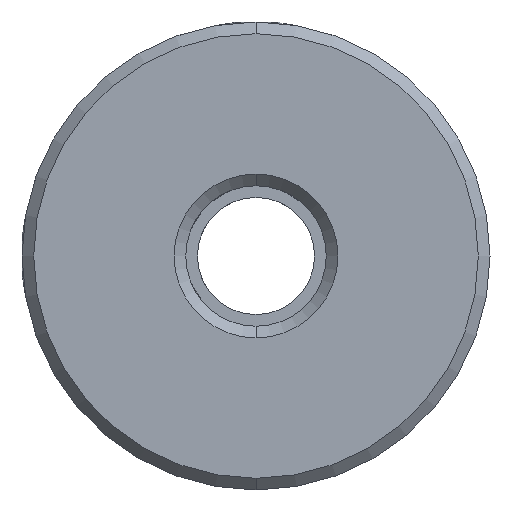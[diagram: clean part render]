
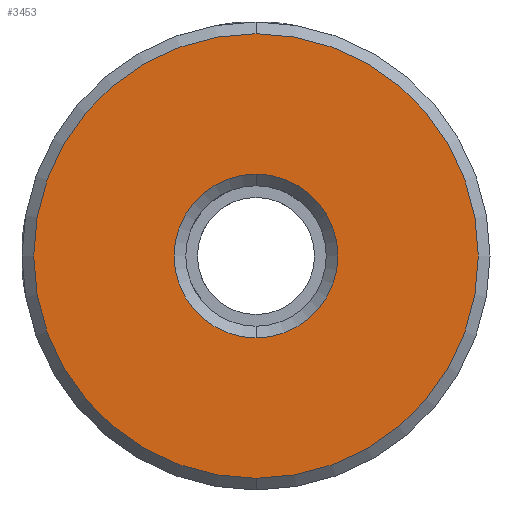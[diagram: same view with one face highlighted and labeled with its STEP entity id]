
A CAD part, front view. The second image highlights one B-rep face of the part: STEP entity #3453.
In plain terms, the highlighted planar face has unit normal (0, -1, 0).
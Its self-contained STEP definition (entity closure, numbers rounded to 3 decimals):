
#29 = CIRCLE ( 'NONE', #271, 9.5 ) ;
#180 = DIRECTION ( 'NONE',  ( 0., 1., 0. ) ) ;
#246 = EDGE_LOOP ( 'NONE', ( #1196, #3404 ) ) ;
#271 = AXIS2_PLACEMENT_3D ( 'NONE', #3485, #1803, #385 ) ;
#340 = DIRECTION ( 'NONE',  ( 0., -1., 0. ) ) ;
#385 = DIRECTION ( 'NONE',  ( 0., 0., 1. ) ) ;
#446 = CIRCLE ( 'NONE', #3272, 9.5 ) ;
#720 = FACE_BOUND ( 'NONE', #2488, .T. ) ;
#883 = VERTEX_POINT ( 'NONE', #1522 ) ;
#923 = EDGE_CURVE ( 'NONE', #1706, #883, #446, .T. ) ;
#961 = ORIENTED_EDGE ( 'NONE', *, *, #2196, .T. ) ;
#1196 = ORIENTED_EDGE ( 'NONE', *, *, #923, .T. ) ;
#1319 = CIRCLE ( 'NONE', #1501, 3.5 ) ;
#1378 = DIRECTION ( 'NONE',  ( 0., 0., 1. ) ) ;
#1500 = DIRECTION ( 'NONE',  ( 0., 0., 1. ) ) ;
#1501 = AXIS2_PLACEMENT_3D ( 'NONE', #3356, #2750, #2450 ) ;
#1522 = CARTESIAN_POINT ( 'NONE',  ( -10.188, -0.277, -9.454 ) ) ;
#1578 = EDGE_CURVE ( 'NONE', #2083, #3560, #2036, .T. ) ;
#1652 = DIRECTION ( 'NONE',  ( 0., 1., 0. ) ) ;
#1689 = CARTESIAN_POINT ( 'NONE',  ( -10.188, -0.277, 3.546 ) ) ;
#1706 = VERTEX_POINT ( 'NONE', #2020 ) ;
#1737 = CARTESIAN_POINT ( 'NONE',  ( -10.188, -0.277, 0.046 ) ) ;
#1803 = DIRECTION ( 'NONE',  ( 0., -1., 0. ) ) ;
#1854 = PLANE ( 'NONE',  #2169 ) ;
#2020 = CARTESIAN_POINT ( 'NONE',  ( -10.188, -0.277, 9.546 ) ) ;
#2036 = CIRCLE ( 'NONE', #2264, 3.5 ) ;
#2044 = CARTESIAN_POINT ( 'NONE',  ( -10.188, -0.277, -3.454 ) ) ;
#2083 = VERTEX_POINT ( 'NONE', #2044 ) ;
#2169 = AXIS2_PLACEMENT_3D ( 'NONE', #2712, #180, #2724 ) ;
#2196 = EDGE_CURVE ( 'NONE', #3560, #2083, #1319, .T. ) ;
#2264 = AXIS2_PLACEMENT_3D ( 'NONE', #3060, #1652, #1378 ) ;
#2450 = DIRECTION ( 'NONE',  ( 0., 0., 1. ) ) ;
#2488 = EDGE_LOOP ( 'NONE', ( #3345, #961 ) ) ;
#2707 = EDGE_CURVE ( 'NONE', #883, #1706, #29, .T. ) ;
#2712 = CARTESIAN_POINT ( 'NONE',  ( -10.188, -0.277, 0.046 ) ) ;
#2724 = DIRECTION ( 'NONE',  ( 0., 0., 1. ) ) ;
#2750 = DIRECTION ( 'NONE',  ( 0., 1., 0. ) ) ;
#2993 = FACE_OUTER_BOUND ( 'NONE', #246, .T. ) ;
#3060 = CARTESIAN_POINT ( 'NONE',  ( -10.188, -0.277, 0.046 ) ) ;
#3272 = AXIS2_PLACEMENT_3D ( 'NONE', #1737, #340, #1500 ) ;
#3345 = ORIENTED_EDGE ( 'NONE', *, *, #1578, .T. ) ;
#3356 = CARTESIAN_POINT ( 'NONE',  ( -10.188, -0.277, 0.046 ) ) ;
#3404 = ORIENTED_EDGE ( 'NONE', *, *, #2707, .T. ) ;
#3453 = ADVANCED_FACE ( 'NONE', ( #2993, #720 ), #1854, .F. ) ;
#3485 = CARTESIAN_POINT ( 'NONE',  ( -10.188, -0.277, 0.046 ) ) ;
#3560 = VERTEX_POINT ( 'NONE', #1689 ) ;
